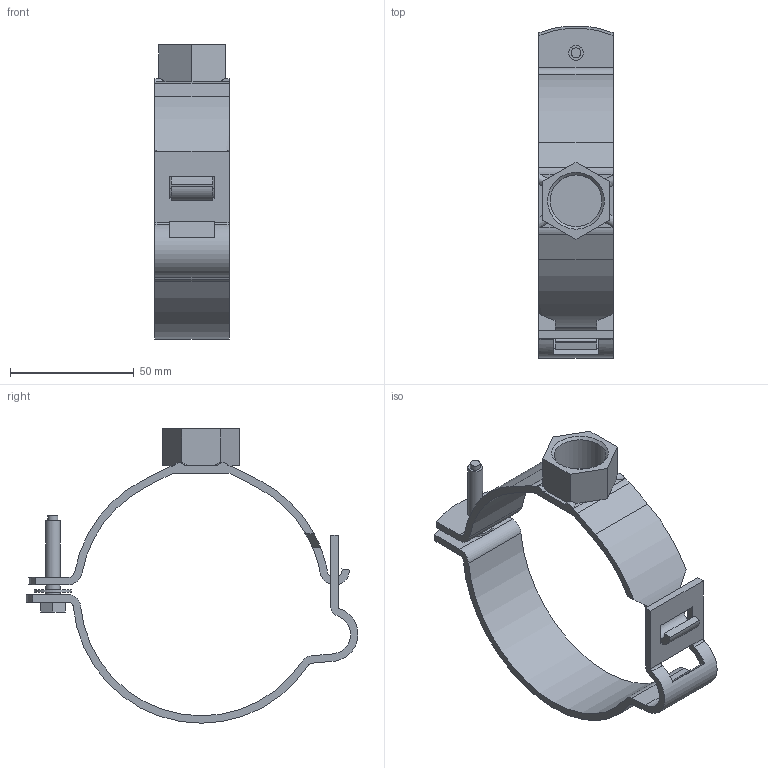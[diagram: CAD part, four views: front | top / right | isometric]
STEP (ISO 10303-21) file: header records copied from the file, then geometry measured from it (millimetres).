
FILE_DESCRIPTION(/* description */ (''),/* implementation_level */ '2;1');
FILE_NAME(/* name */ 'H:\Geberit-Teile\Export\366.841.00.2\stp\366841.stp',/* time_stamp */ '2016-03-14T12:18:46+01:00',/* author */ ('seihe2'),/* organization */ (''),/* preprocessor_version */ 'ST-DEVELOPER v15.2',/* originating_system */ 'Autodesk Inventor 2014',/* authorisation */ '');
FILE_SCHEMA (('AUTOMOTIVE_DESIGN { 1 0 10303 214 3 1 1 }'));
Length unit declared in the file: millimetre
Products named in the file (1): 366841
Bounding box: 30 x 134.38 x 119.2 mm (x, y, z)
Volume: 38501.1 mm3; surface area: 28522.1 mm2
Topology: 1 solids, 1 shells, 105 faces, 291 edges, 191 vertices
Faces by surface type: plane 65, cylinder 35, bspline 4, cone 1
Full cylindrical faces by diameter (mm): 4 x1, 6 x3, 15 x1, 20.955 x1
Entity records: 3500 total; most frequent: CARTESIAN_POINT 617, DIRECTION 585, ORIENTED_EDGE 568, EDGE_CURVE 284, AXIS2_PLACEMENT_3D 199, VERTEX_POINT 191, LINE 187, VECTOR 187
